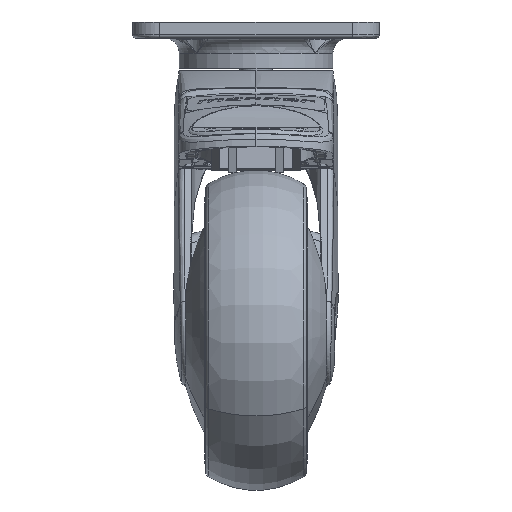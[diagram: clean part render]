
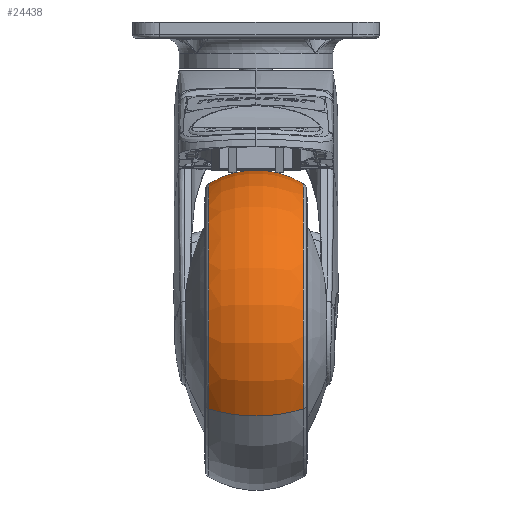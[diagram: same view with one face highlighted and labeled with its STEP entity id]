
A CAD part, left-side view. The second image highlights one B-rep face of the part: STEP entity #24438.
In plain terms, the highlighted toroidal (fillet/blend) face has major radius 22 mm and minor radius 28 mm.
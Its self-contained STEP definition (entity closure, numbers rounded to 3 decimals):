
#6165 = DIRECTION ( 'NONE',  ( 0., -1., 0. ) ) ;
#6166 = CARTESIAN_POINT ( 'NONE',  ( -18.853, 5.667, -45.31 ) ) ;
#6174 = TOROIDAL_SURFACE ( 'NONE', #6192, 22., 28. ) ;
#6179 = DIRECTION ( 'NONE',  ( 0.845, 0., 0.535 ) ) ;
#6183 = FACE_OUTER_BOUND ( 'NONE', #23945, .T. ) ;
#6192 = AXIS2_PLACEMENT_3D ( 'NONE', #6166, #6165, #6179 ) ;
#6230 = CARTESIAN_POINT ( 'NONE',  ( 19.803, -9.141, -20.814 ) ) ;
#6287 = CARTESIAN_POINT ( 'NONE',  ( -57.509, 20.474, -69.807 ) ) ;
#6309 = CARTESIAN_POINT ( 'NONE',  ( 19.803, 20.474, -20.814 ) ) ;
#6312 = CARTESIAN_POINT ( 'NONE',  ( -18.853, 20.474, -45.31 ) ) ;
#6316 = DIRECTION ( 'NONE',  ( 0., -1., 0. ) ) ;
#6317 = AXIS2_PLACEMENT_3D ( 'NONE', #6312, #6316, #6371 ) ;
#6318 = CIRCLE ( 'NONE', #6317, 45.764 ) ;
#6371 = DIRECTION ( 'NONE',  ( 0.845, 0., 0.535 ) ) ;
#6372 = CIRCLE ( 'NONE', #6388, 28. ) ;
#6380 = CARTESIAN_POINT ( 'NONE',  ( -37.436, 5.667, -57.087 ) ) ;
#6382 = CIRCLE ( 'NONE', #6424, 28. ) ;
#6388 = AXIS2_PLACEMENT_3D ( 'NONE', #6380, #6427, #6426 ) ;
#6415 = DIRECTION ( 'NONE',  ( -0.845, 0., -0.535 ) ) ;
#6416 = DIRECTION ( 'NONE',  ( 0.535, 0., -0.845 ) ) ;
#6421 = CARTESIAN_POINT ( 'NONE',  ( -0.27, 5.667, -33.534 ) ) ;
#6422 = DIRECTION ( 'NONE',  ( 0.845, 0., 0.535 ) ) ;
#6423 = AXIS2_PLACEMENT_3D ( 'NONE', #6429, #6436, #6422 ) ;
#6424 = AXIS2_PLACEMENT_3D ( 'NONE', #6421, #6416, #6415 ) ;
#6426 = DIRECTION ( 'NONE',  ( 0.845, 0., 0.535 ) ) ;
#6427 = DIRECTION ( 'NONE',  ( -0.535, 0., 0.845 ) ) ;
#6429 = CARTESIAN_POINT ( 'NONE',  ( -18.853, -9.141, -45.31 ) ) ;
#6433 = CIRCLE ( 'NONE', #6423, 45.764 ) ;
#6436 = DIRECTION ( 'NONE',  ( 0., -1., 0. ) ) ;
#12246 = VERTEX_POINT ( 'NONE', #50050 ) ;
#23945 = EDGE_LOOP ( 'NONE', ( #24460, #24439, #24546, #24548 ) ) ;
#24438 = ADVANCED_FACE ( 'NONE', ( #6183 ), #6174, .T. ) ;
#24439 = ORIENTED_EDGE ( 'NONE', *, *, #24541, .T. ) ;
#24448 = VERTEX_POINT ( 'NONE', #6230 ) ;
#24460 = ORIENTED_EDGE ( 'NONE', *, *, #24495, .T. ) ;
#24468 = VERTEX_POINT ( 'NONE', #6287 ) ;
#24470 = VERTEX_POINT ( 'NONE', #6309 ) ;
#24495 = EDGE_CURVE ( 'NONE', #24470, #24468, #6318, .T. ) ;
#24541 = EDGE_CURVE ( 'NONE', #24468, #12246, #6372, .T. ) ;
#24543 = EDGE_CURVE ( 'NONE', #24448, #12246, #6433, .T. ) ;
#24546 = ORIENTED_EDGE ( 'NONE', *, *, #24543, .F. ) ;
#24547 = EDGE_CURVE ( 'NONE', #24470, #24448, #6382, .T. ) ;
#24548 = ORIENTED_EDGE ( 'NONE', *, *, #24547, .F. ) ;
#50050 = CARTESIAN_POINT ( 'NONE',  ( -57.509, -9.141, -69.807 ) ) ;
